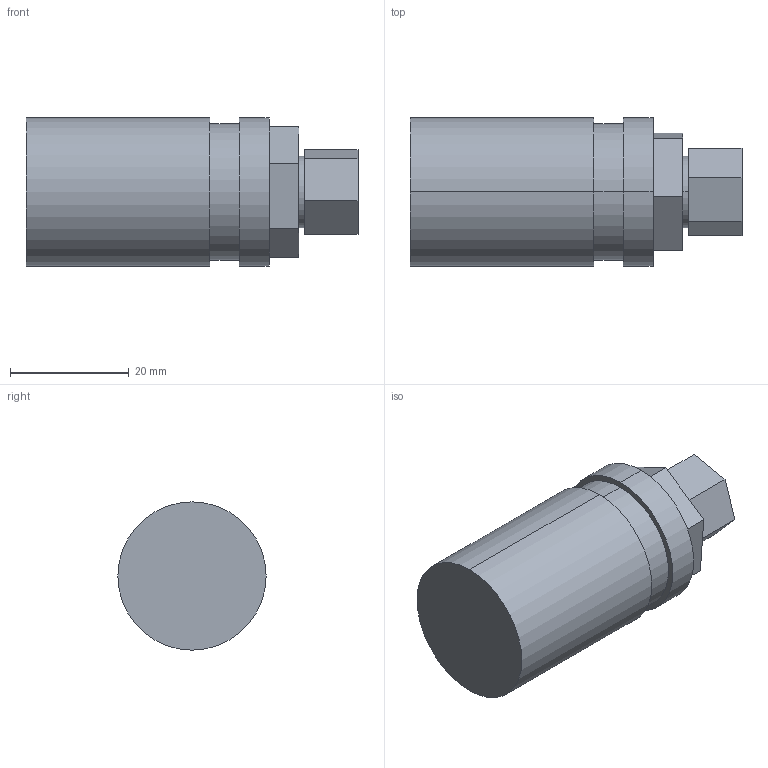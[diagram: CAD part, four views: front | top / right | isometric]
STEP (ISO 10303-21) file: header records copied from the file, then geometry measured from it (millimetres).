
FILE_DESCRIPTION (( 'STEP AP214' ), '1' );
FILE_NAME ('BR601.09 EGB 17.STEP', '2020-12-02T13:33:27', ( '' ), ( '' ), 'SwSTEP 2.0', 'SolidWorks 2018', '' );
FILE_SCHEMA (( 'AUTOMOTIVE_DESIGN' ));
Length unit declared in the file: millimetre
Products named in the file (1): BR601.09 EGB 17
Bounding box: 56 x 25 x 25 mm (x, y, z)
Volume: 22749 mm3; surface area: 5160 mm2
Topology: 1 solids, 1 shells, 27 faces, 60 edges, 40 vertices
Faces by surface type: plane 19, cylinder 8
Entity records: 784 total; most frequent: DIRECTION 132, CARTESIAN_POINT 128, ORIENTED_EDGE 120, EDGE_CURVE 60, LINE 44, AXIS2_PLACEMENT_3D 44, VECTOR 44, VERTEX_POINT 40
